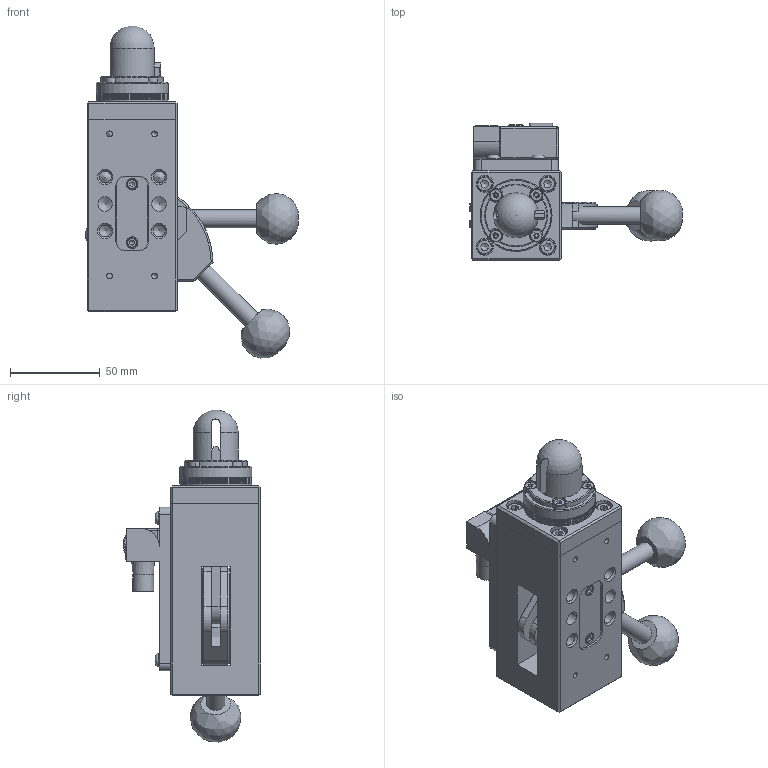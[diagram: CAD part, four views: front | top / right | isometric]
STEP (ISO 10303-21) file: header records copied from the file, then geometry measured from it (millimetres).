
FILE_DESCRIPTION(/* description */ (''),/* implementation_level */ '2;1');
FILE_NAME(/* name */ 'S:\Tom\INVENTOR FILES\AUTOMOTIVE\UNDERBODY CLAMPS\XPCB\SIMPLIFIED MODELS\STEP\XPCB-25-02-ES1-R.stp',/* time_stamp */ '2021-06-08T10:19:29+01:00',/* author */ ('RWilson'),/* organization */ (''),/* preprocessor_version */ 'ST-DEVELOPER v18.1',/* originating_system */ 'Autodesk Inventor 2021',/* authorisation */ '');
FILE_SCHEMA (('AUTOMOTIVE_DESIGN { 1 0 10303 214 3 1 1 }'));
Length unit declared in the file: millimetre
Products named in the file (10): XPCB-25-02-ES1-R; XPCB - BODY; XPCB - HANDLE; XPCB - TOP PLATE; XPCB - 1MM SHIM; XPCB - 0.5MM SHIM; XPCB - 25MM CLAMPING RING & PIN; XPCB - 25MM HOOK; XPCB - BLANKING COVER; XPCB - SWITCH ASSEMBLY
Assembly tree (13 placements, depth 2):
  XPCB-25-02-ES1-R
    XPCB - BODY
    XPCB - HANDLE  x2
    XPCB - TOP PLATE
    XPCB - 0.5MM SHIM  x2
    XPCB - 1MM SHIM  x3
    XPCB - 25MM CLAMPING RING & PIN
    XPCB - 25MM HOOK
    XPCB - BLANKING COVER
    XPCB - SWITCH ASSEMBLY
Bounding box: 118.37 x 76.31 x 184.64 mm (x, y, z)
Volume: 381474.3 mm3; surface area: 119341.2 mm2
Topology: 13 solids, 31 shells, 881 faces, 2276 edges, 1476 vertices
Faces by surface type: plane 403, cylinder 280, cone 132, bspline 24, torus 21, sphere 21
Full cylindrical faces by diameter (mm): 0.7 x8, 1.7 x1, 1.8 x2, 2 x5, 2.459 x6, 2.5 x3, 2.8 x2, 3 x4, 3.2 x2, 3.242 x8, 4 x12, 4.134 x1, 4.3 x2, 4.5 x8, 4.917 x3, 5 x4, 5.3 x1, 5.5 x2, 6 x3, 6.5 x2, 6.6 x3, 6.647 x12, 7.6 x4, 8 x6, 8.376 x2, 8.5 x5, 9 x3, 9.5 x4, 10 x5, 10.7 x1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
Entity records: 25604 total; most frequent: CARTESIAN_POINT 5218, DIRECTION 4390, ORIENTED_EDGE 4082, EDGE_CURVE 2041, AXIS2_PLACEMENT_3D 1701, VERTEX_POINT 1374, LINE 988, VECTOR 988
